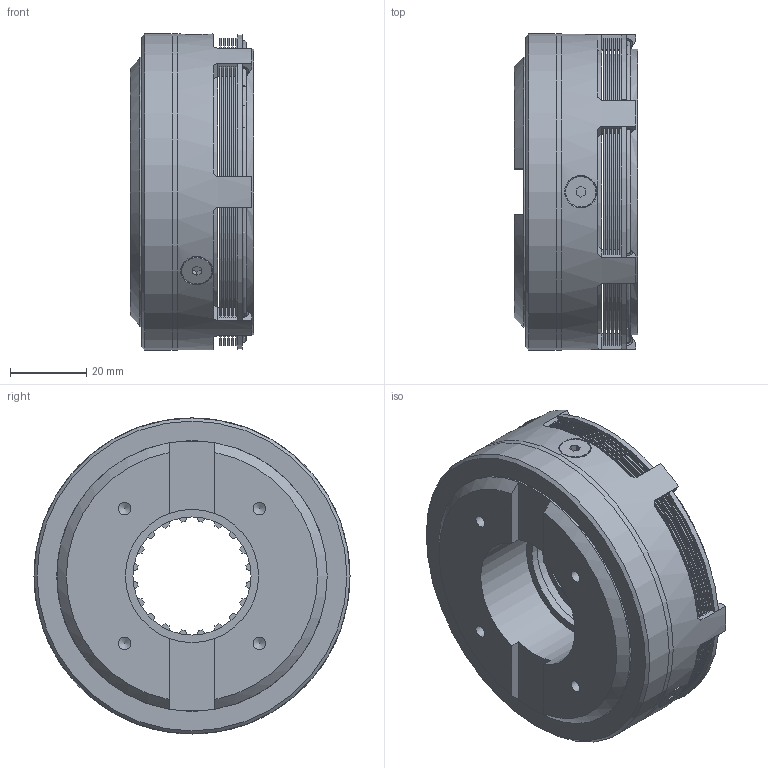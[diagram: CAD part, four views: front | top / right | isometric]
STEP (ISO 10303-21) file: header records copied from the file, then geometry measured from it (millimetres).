
FILE_DESCRIPTION(/* description */ (''),/* implementation_level */ '2;1');
FILE_NAME(/* name */ 'X:\INVENTOR\DISEGNI\05_Friz_Elettmag-Lam\05_02 ECF\05_02_082_01 ECF082\05_02_082_01 ECF082@STEP.stp',/* time_stamp */ '2023-03-03T09:51:53+01:00',/* author */ ('alessio'),/* organization */ (''),/* preprocessor_version */ 'ST-DEVELOPER v18.1',/* originating_system */ 'Autodesk Inventor 2021',/* authorisation */ '');
FILE_SCHEMA (('AUTOMOTIVE_DESIGN { 1 0 10303 214 3 1 1 }'));
Length unit declared in the file: millimetre
Products named in the file (1): 05_02_082_01 ECF082
Bounding box: 32.5 x 83 x 83 mm (x, y, z)
Volume: 123524.6 mm3; surface area: 79763.2 mm2
Topology: 9 solids, 12 shells, 924 faces, 2715 edges, 1809 vertices
Faces by surface type: cylinder 653, plane 229, cone 33, torus 9
Full cylindrical faces by diameter (mm): 1.5 x7, 3.242 x7, 4 x3, 4.5 x3, 8 x3, 8.5 x3, 31 x1, 34 x6, 35 x1, 36 x1, 48 x1, 66 x1, 71 x1, 72.4 x4, 75 x1, 83 x3
Entity records: 33561 total; most frequent: CARTESIAN_POINT 6589, DIRECTION 5869, ORIENTED_EDGE 5422, EDGE_CURVE 2711, AXIS2_PLACEMENT_3D 2341, VERTEX_POINT 1809, CIRCLE 1368, LINE 1187
